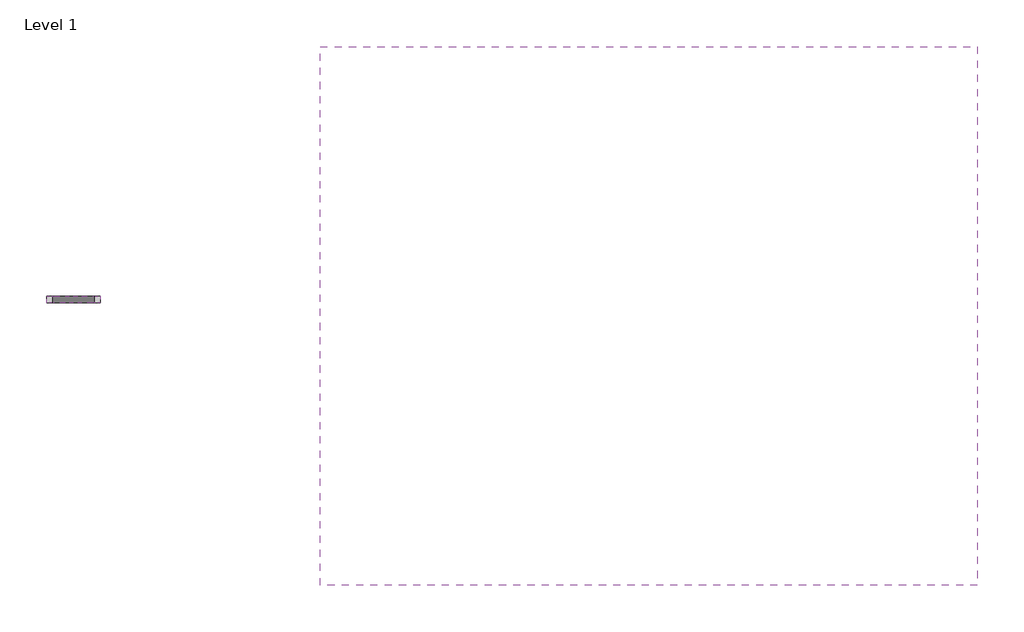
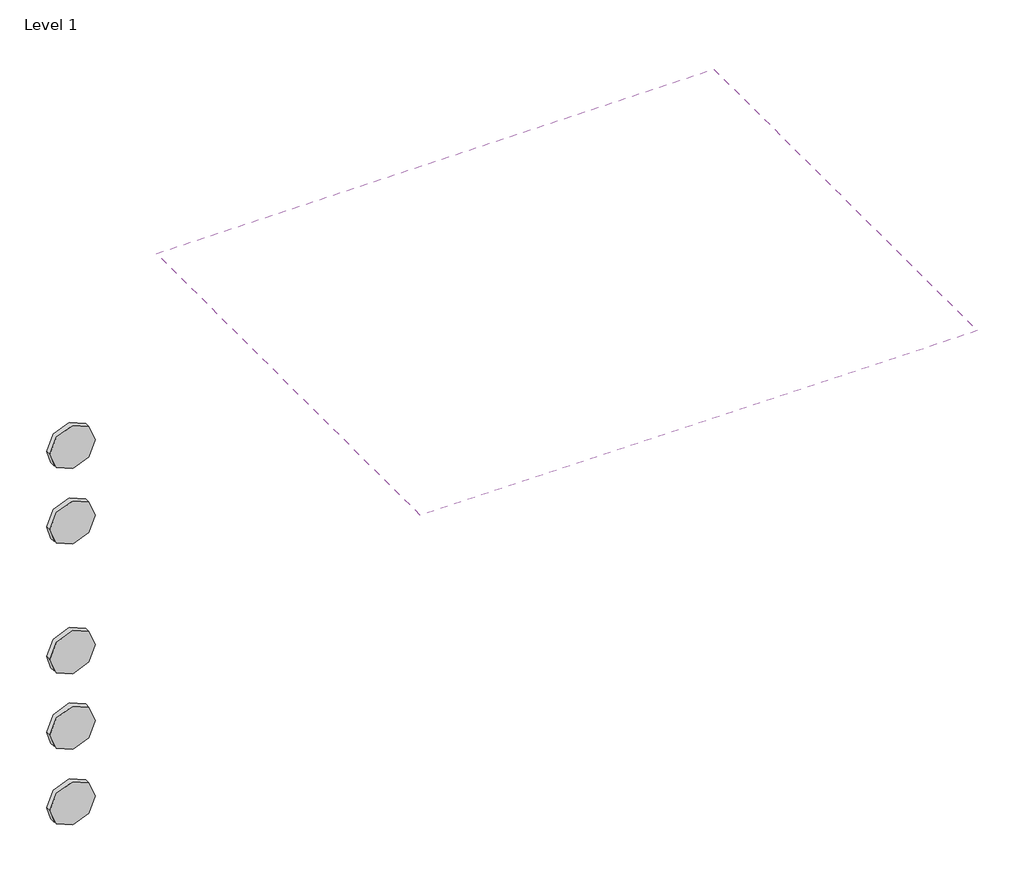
# One storey, incomplete: 5 proxies, 1 covering.
"""IFC4 building model written with IfcOpenShell, lengths in millimetres."""

import ifcopenshell
import ifcopenshell.guid

model = None  # the IFC model being written
_history = None  # IfcOwnerHistory: only IFC2X3 demands one
_inside = {}  # id of a spatial element -> (the spatial element, [elements in it])
_under = {}  # id of a project, library or spatial element -> (it, [spatial elements below it])
_declared = {}  # id of a project -> (the project, [libraries it declares])
_typed = {}  # id of a type object -> (the type object, [elements of that type])
_made_of = {}  # id of a material, layer set ... -> (it, [elements and type objects made of it])


def new_model(schema):
    """Start an empty IFC model of exactly this schema.

    Asked for "IFC4X3", IfcOpenShell would pick the latest addendum, in which some entities
    have other attributes; the version numbers below select the first issue.
    IFC2X3 requires an IfcOwnerHistory on every rooted entity: one is made here for all.
    """
    global model, _history
    if schema == "IFC4X3":
        model = ifcopenshell.file(schema_version=(4, 3, 0, 0))
    else:
        model = ifcopenshell.file(schema=schema)
    _inside.clear()
    _under.clear()
    _declared.clear()
    _typed.clear()
    _made_of.clear()
    _history = None
    if model.schema == "IFC2X3":
        org = make("IfcOrganization", Name="unknown")
        user = make(
            "IfcPersonAndOrganization",
            ThePerson=make("IfcPerson", FamilyName="unknown"),
            TheOrganization=org,
        )
        app = make(
            "IfcApplication",
            ApplicationDeveloper=org,
            Version="unknown",
            ApplicationFullName="unknown",
            ApplicationIdentifier="unknown",
        )
        _history = make(
            "IfcOwnerHistory",
            OwningUser=user,
            OwningApplication=app,
            ChangeAction="ADDED",
            CreationDate=0,
        )
    return model


def make(cls, **values):
    """One entity of the class cls with the attributes given. An attribute that is None is left unset."""
    return model.create_entity(
        cls, **{name: value for name, value in values.items() if value is not None}
    )


def rooted(cls, **values):
    """An entity with a GlobalId (a new one), such as an element, a storey or a relation."""
    return make(cls, GlobalId=ifcopenshell.guid.new(), OwnerHistory=_history, **values)


def si_unit(unit_type, name, prefix=None):
    """IfcSIUnit, for example si_unit("LENGTHUNIT", "METRE", prefix="MILLI")."""
    return make("IfcSIUnit", UnitType=unit_type, Prefix=prefix, Name=name)


def assignment(units):
    """IfcUnitAssignment: the units of a project."""
    return None if units is None else make("IfcUnitAssignment", Units=units)


def point(xyz):
    """IfcCartesianPoint."""
    return None if xyz is None else make("IfcCartesianPoint", Coordinates=xyz)


def direction(xyz):
    """IfcDirection."""
    return None if xyz is None else make("IfcDirection", DirectionRatios=xyz)


def frame(location, z_axis=None, x_axis=None):
    """IfcAxis2Placement3D, a coordinate frame: its origin and axes. An axis left out is left unset."""
    return make(
        "IfcAxis2Placement3D",
        Location=point(location),
        Axis=direction(z_axis),
        RefDirection=direction(x_axis),
    )


def frame_2d(location, x_axis=None):
    """IfcAxis2Placement2D, a coordinate frame in the plane: its origin and x axis."""
    return make(
        "IfcAxis2Placement2D", Location=point(location), RefDirection=direction(x_axis)
    )


def origin():
    """The frame at (0, 0, 0) with its axes left unset."""
    return frame((0.0, 0.0, 0.0))


def place(relative_to, where):
    """IfcLocalPlacement: puts the frame where relative to a parent placement (None: the world)."""
    return make(
        "IfcLocalPlacement", PlacementRelTo=relative_to, RelativePlacement=where
    )


def context(
    kind, dimensions, precision=None, world=None, true_north=None, identifier=None
):
    """IfcGeometricRepresentationContext, for example the 3D "Model" context."""
    return make(
        "IfcGeometricRepresentationContext",
        ContextIdentifier=identifier,
        ContextType=kind,
        CoordinateSpaceDimension=dimensions,
        Precision=precision,
        WorldCoordinateSystem=world,
        TrueNorth=true_north,
    )


def project(units=None, contexts=None):
    """IfcProject with its units and contexts."""
    return rooted(
        "IfcProject",
        Name="project",
        RepresentationContexts=contexts,
        UnitsInContext=assignment(units),
    )


def spatial(cls, under=None, at=None, **own):
    """A site, building, storey or space (cls), placed at a placement, below another one or the project."""
    s = rooted(cls, ObjectPlacement=at, **own)
    if under is not None:
        _under.setdefault(under.id(), (under, []))[1].append(s)
    return s


def polyline(points):
    """IfcPolyline through the points."""
    return make("IfcPolyline", Points=[point(p) for p in points])


def circle_curve(where, radius):
    """IfcCircle in the frame where."""
    return make("IfcCircle", Position=where, Radius=radius)


def trimmed(basis, trim1, trim2, sense, master):
    """IfcTrimmedCurve: the piece of a basis curve between two trims."""
    return make(
        "IfcTrimmedCurve",
        BasisCurve=basis,
        Trim1=trim1,
        Trim2=trim2,
        SenseAgreement=sense,
        MasterRepresentation=master,
    )


def segment(curve, same_sense, transition):
    """IfcCompositeCurveSegment."""
    return make(
        "IfcCompositeCurveSegment",
        Transition=transition,
        SameSense=same_sense,
        ParentCurve=curve,
    )


def composite_curve(segments, self_intersect=None):
    """IfcCompositeCurve: segments joined end to end."""
    return make("IfcCompositeCurve", Segments=segments, SelfIntersect=self_intersect)


def outline(outer, holes=None, kind="AREA"):
    """IfcArbitraryClosedProfileDef: a profile drawn as a closed curve; with holes, ...WithVoids."""
    if holes is None:
        return make("IfcArbitraryClosedProfileDef", ProfileType=kind, OuterCurve=outer)
    return make(
        "IfcArbitraryProfileDefWithVoids",
        ProfileType=kind,
        OuterCurve=outer,
        InnerCurves=holes,
    )


def extrude(swept, where, along, depth):
    """IfcExtrudedAreaSolid: the profile swept, set in the frame where, extruded along a direction by depth."""
    return make(
        "IfcExtrudedAreaSolid",
        SweptArea=swept,
        Position=where,
        ExtrudedDirection=direction(along),
        Depth=depth,
    )


def shape(context_of_items, identifier, shape_type, items):
    """IfcShapeRepresentation: the items that make up one representation, for example the "Body"."""
    return make(
        "IfcShapeRepresentation",
        ContextOfItems=context_of_items,
        RepresentationIdentifier=identifier,
        RepresentationType=shape_type,
        Items=items,
    )


def source(mapping_origin, context_of_items, identifier, shape_type, items):
    """IfcRepresentationMap: a shape defined once, which mapped items show again and again."""
    return make(
        "IfcRepresentationMap",
        MappingOrigin=mapping_origin,
        MappedRepresentation=shape(context_of_items, identifier, shape_type, items),
    )


def transform(
    local_origin,
    x_axis=None,
    y_axis=None,
    z_axis=None,
    scale=None,
    scale2=None,
    scale3=None,
    uniform=True,
):
    """IfcCartesianTransformationOperator3D, or its non-uniform kind. x_axis, y_axis, z_axis: its Axis1, 2, 3."""
    if uniform:
        return make(
            "IfcCartesianTransformationOperator3D",
            Axis1=direction(x_axis),
            Axis2=direction(y_axis),
            LocalOrigin=point(local_origin),
            Scale=scale,
            Axis3=direction(z_axis),
        )
    return make(
        "IfcCartesianTransformationOperator3DnonUniform",
        Axis1=direction(x_axis),
        Axis2=direction(y_axis),
        LocalOrigin=point(local_origin),
        Scale=scale,
        Axis3=direction(z_axis),
        Scale2=scale2,
        Scale3=scale3,
    )


def mapped(mapping_source, mapping_target):
    """IfcMappedItem: shows the shape of a source again, moved by a transform."""
    return make(
        "IfcMappedItem", MappingSource=mapping_source, MappingTarget=mapping_target
    )


def made_of(thing, what):
    """Note that an element or type object is made of a material, layer set ...; save() writes the relation."""
    if what is not None:
        _made_of.setdefault(what.id(), (what, []))[1].append(thing)
    return thing


def element(
    cls,
    number,
    at=None,
    inside=None,
    cuts=None,
    type_object=None,
    material=None,
    context=None,
    identifier="Body",
    shape_type=None,
    held_by="IfcProductDefinitionShape",
    body=None,
    shapes=None,
    **own,
):
    """One element of the class cls, such as IfcWall. Its Tag is "e" and its number.

    at: its placement. inside: the storey or other place that contains it. cuts: it is an
    opening in that element (IfcRelVoidsElement). A single representation is given by context,
    identifier, shape_type and body (its items); several are given by shapes. held_by: the class
    of the entity that holds the representations. save() writes the other relations.
    """
    e = rooted(cls, Tag="e%d" % number, ObjectPlacement=at, **own)
    if body is not None:
        shapes = [shape(context, identifier, shape_type, body)]
    if shapes is not None:
        e.Representation = make(held_by, Representations=shapes)
    if inside is not None:
        _inside.setdefault(inside.id(), (inside, []))[1].append(e)
    if cuts is not None:
        rooted(
            "IfcRelVoidsElement", RelatingBuildingElement=cuts, RelatedOpeningElement=e
        )
    if type_object is not None:
        _typed.setdefault(type_object.id(), (type_object, []))[1].append(e)
    return made_of(e, material)


def aggregate(whole, parts):
    """IfcRelAggregates: a whole, such as a stair, and the parts it consists of."""
    return rooted("IfcRelAggregates", RelatingObject=whole, RelatedObjects=parts)


def save(model, path):
    """Write the relations noted so far, then the file.

    IfcRelAggregates (storeys below a building ...), IfcRelContainedInSpatialStructure (elements
    in a storey), IfcRelDefinesByType, IfcRelAssociatesMaterial and IfcRelDeclares: one each for
    every whole, place, type object, material and project.
    """
    for whole, parts in _under.values():
        aggregate(whole, parts)
    for where, things in _inside.values():
        rooted(
            "IfcRelContainedInSpatialStructure",
            RelatedElements=things,
            RelatingStructure=where,
        )
    for kind, things in _typed.values():
        rooted("IfcRelDefinesByType", RelatedObjects=things, RelatingType=kind)
    for what, things in _made_of.values():
        rooted("IfcRelAssociatesMaterial", RelatedObjects=things, RelatingMaterial=what)
    for by, libraries in _declared.values():
        rooted("IfcRelDeclares", RelatingContext=by, RelatedDefinitions=libraries)
    model.write(path)


def materialmodel_materialmodel_73a78689(model_context):
    return source(origin(), model_context, "Body", "SweptSolid", [
        extrude(outline(composite_curve([segment(trimmed(circle_curve(frame_2d((75.0, 0.0)), 50.0), [point((75.0, -50.0))], [point((75.0, 50.0))], False, "CARTESIAN"), True, "CONTINUOUS"), segment(trimmed(circle_curve(frame_2d((75.0, 0.0)), 50.0), [point((75.0, 50.0))], [point((75.0, -50.0))], False, "CARTESIAN"), True, "CONTINUOUS")], self_intersect=False)), frame((0.0, -11.8565782, 0.0), z_axis=(0.0, 1.0, 0.0), x_axis=(0.0, 0.0, 1.0)), (0.0, 0.0, 1.0), 11.8565782),
    ])


model = new_model("IFC4")

# Units and contexts
model_context = context("Model", 3, world=origin())
ifc_project = project(units=[si_unit("LENGTHUNIT", "METRE", prefix="MILLI")], contexts=[model_context])

# Site, building, storey
site = spatial("IfcSite", under=ifc_project)
building = spatial("IfcBuilding", under=site)
storey = spatial("IfcBuildingStorey", under=building, Name="Level 1", Elevation=0.0)

# Proxies
placement = place(None, origin())
materialmodel_materialmodel_shape = materialmodel_materialmodel_73a78689(model_context)
element("IfcBuildingElementProxy", 1, Name="MaterialModel : MaterialModel", ObjectType="MaterialModel : MaterialModel", at=placement, inside=storey, context=model_context, shape_type="MappedRepresentation", body=[
    mapped(materialmodel_materialmodel_shape, transform((-14939.2264414, 6097.5863071, 1450.2296761), x_axis=(1.0, 0.0, 0.0), y_axis=(0.0, 1.0, 0.0), z_axis=(0.0, 0.0, 1.0))),
])
element("IfcBuildingElementProxy", 2, Name="MaterialModel : MaterialModel", ObjectType="MaterialModel : MaterialModel", at=placement, inside=storey, context=model_context, shape_type="MappedRepresentation", body=[
    mapped(materialmodel_materialmodel_shape, transform((-14939.2264414, 6097.5863071, 1925.4161759), x_axis=(1.0, 0.0, 0.0), y_axis=(0.0, 1.0, 0.0), z_axis=(0.0, 0.0, 1.0))),
])
element("IfcBuildingElementProxy", 3, Name="MaterialModel : MaterialModel", ObjectType="MaterialModel : MaterialModel", at=placement, inside=storey, context=model_context, shape_type="MappedRepresentation", body=[
    mapped(materialmodel_materialmodel_shape, transform((-14939.2264414, 6097.5863071, 1750.4161759), x_axis=(1.0, 0.0, 0.0), y_axis=(0.0, 1.0, 0.0), z_axis=(0.0, 0.0, 1.0))),
])
element("IfcBuildingElementProxy", 4, Name="MaterialModel : MaterialModel", ObjectType="MaterialModel : MaterialModel", at=placement, inside=storey, context=model_context, shape_type="MappedRepresentation", body=[
    mapped(materialmodel_materialmodel_shape, transform((-14939.2264414, 6097.5863071, 1275.2296761), x_axis=(1.0, 0.0, 0.0), y_axis=(0.0, 1.0, 0.0), z_axis=(0.0, 0.0, 1.0))),
])
element("IfcBuildingElementProxy", 5, Name="MaterialModel : MaterialModel", ObjectType="MaterialModel : MaterialModel", at=placement, inside=storey, context=model_context, shape_type="MappedRepresentation", body=[
    mapped(materialmodel_materialmodel_shape, transform((-14939.2264414, 6097.5863071, 1100.2296761), x_axis=(1.0, 0.0, 0.0), y_axis=(0.0, 1.0, 0.0), z_axis=(0.0, 0.0, 1.0))),
])

# Covering
element("IfcCovering", 6, ObjectType="600 x 1200mm Grid", at=placement, inside=storey, context=model_context, shape_type="SweptSolid", body=[
    extrude(outline(polyline([(-13260.883584, 6561.1087432), (-13260.883584, 5561.1087432), (-14480.883584, 5561.1087432), (-14480.883584, 6561.1087432), (-13260.883584, 6561.1087432)])), frame((0.0, 0.0, 2000.0), z_axis=(0.0, 0.0, 1.0), x_axis=(1.0, 0.0, 0.0)), (0.0, 0.0, 1.0), 52.0),
])

save(model, "model.ifc")
